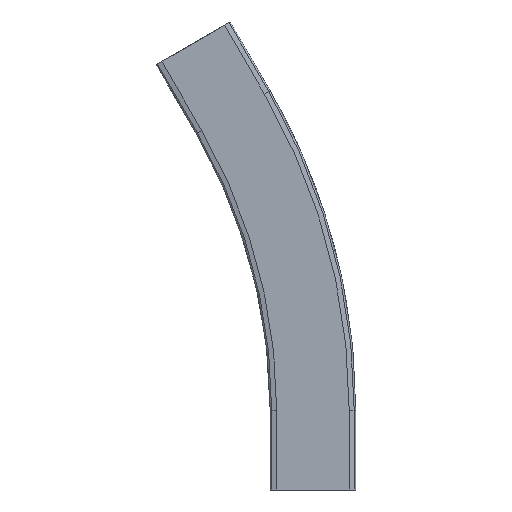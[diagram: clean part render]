
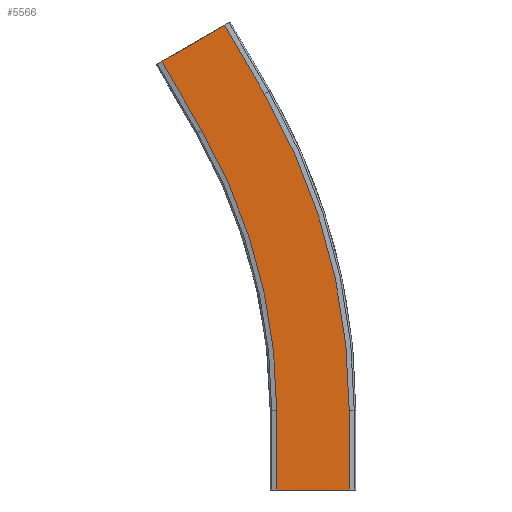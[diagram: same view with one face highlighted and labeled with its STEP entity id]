
A CAD part, front view. The second image highlights one B-rep face of the part: STEP entity #5566.
In plain terms, the highlighted planar face has unit normal (0, -1, 0).
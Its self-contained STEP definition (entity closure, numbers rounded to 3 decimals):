
#5197=CARTESIAN_POINT('',(36.5,-11.,0.0));
#5198=VERTEX_POINT('',#5197);
#5205=CARTESIAN_POINT('',(-36.5,-11.,0.0));
#5206=VERTEX_POINT('',#5205);
#5207=CARTESIAN_POINT('',(-36.5,-11.,0.0));
#5208=DIRECTION('',(1.0,0.0,0.0));
#5209=VECTOR('',#5208,73.);
#5210=LINE('',#5207,#5209);
#5211=EDGE_CURVE('',#5206,#5198,#5210,.T.);
#5277=CARTESIAN_POINT('',(-36.5,-11.,80.0));
#5278=VERTEX_POINT('',#5277);
#5292=CARTESIAN_POINT('',(-36.5,-11.,0.0));
#5293=DIRECTION('',(0.0,0.0,1.0));
#5294=VECTOR('',#5293,80.0);
#5295=LINE('',#5292,#5294);
#5296=EDGE_CURVE('',#5206,#5278,#5295,.T.);
#5306=CARTESIAN_POINT('',(36.5,-11.,80.0));
#5307=VERTEX_POINT('',#5306);
#5316=CARTESIAN_POINT('',(36.5,-11.,0.0));
#5317=DIRECTION('',(0.0,0.0,1.0));
#5318=VECTOR('',#5317,80.0);
#5319=LINE('',#5316,#5318);
#5320=EDGE_CURVE('',#5198,#5307,#5319,.T.);
#5393=CARTESIAN_POINT('',(-48.775,-11.,398.25));
#5394=VERTEX_POINT('',#5393);
#5403=CARTESIAN_POINT('',(-600.0,-11.,80.0));
#5404=DIRECTION('',(0.0,-1.0,0.0));
#5405=DIRECTION('',(1.0,0.0,0.0));
#5406=AXIS2_PLACEMENT_3D('',#5403,#5404,#5405);
#5407=CIRCLE('',#5406,636.5);
#5408=EDGE_CURVE('',#5307,#5394,#5407,.T.);
#5460=CARTESIAN_POINT('',(-111.995,-11.,361.75));
#5461=VERTEX_POINT('',#5460);
#5476=CARTESIAN_POINT('',(-600.0,-11.,80.0));
#5477=DIRECTION('',(0.0,-1.0,0.0));
#5478=DIRECTION('',(1.0,0.0,0.0));
#5479=AXIS2_PLACEMENT_3D('',#5476,#5477,#5478);
#5480=CIRCLE('',#5479,563.5);
#5481=EDGE_CURVE('',#5278,#5461,#5480,.T.);
#5520=CARTESIAN_POINT('',(-151.995,-11.,431.032));
#5521=VERTEX_POINT('',#5520);
#5530=CARTESIAN_POINT('',(-111.995,-11.,361.75));
#5531=DIRECTION('',(-0.5,0.,0.866));
#5532=VECTOR('',#5531,80.);
#5533=LINE('',#5530,#5532);
#5534=EDGE_CURVE('',#5461,#5521,#5533,.T.);
#5539=CARTESIAN_POINT('',(148.305,-11.,56.898));
#5540=DIRECTION('',(0.0,-1.0,0.0));
#5541=DIRECTION('',(0.5,0.0,-0.866));
#5542=AXIS2_PLACEMENT_3D('',#5539,#5540,#5541);
#5543=PLANE('',#5542);
#5544=CARTESIAN_POINT('',(-88.775,-11.,467.532));
#5545=VERTEX_POINT('',#5544);
#5546=CARTESIAN_POINT('',(-88.775,-11.,467.532));
#5547=DIRECTION('',(-0.866,0.,-0.5));
#5548=VECTOR('',#5547,73.);
#5549=LINE('',#5546,#5548);
#5550=EDGE_CURVE('',#5545,#5521,#5549,.T.);
#5551=ORIENTED_EDGE('',*,*,#5550,.T.);
#5552=ORIENTED_EDGE('',*,*,#5534,.F.);
#5553=ORIENTED_EDGE('',*,*,#5481,.F.);
#5554=ORIENTED_EDGE('',*,*,#5296,.F.);
#5555=ORIENTED_EDGE('',*,*,#5211,.T.);
#5556=ORIENTED_EDGE('',*,*,#5320,.T.);
#5557=ORIENTED_EDGE('',*,*,#5408,.T.);
#5558=CARTESIAN_POINT('',(-48.775,-11.,398.25));
#5559=DIRECTION('',(-0.5,0.,0.866));
#5560=VECTOR('',#5559,80.0);
#5561=LINE('',#5558,#5560);
#5562=EDGE_CURVE('',#5394,#5545,#5561,.T.);
#5563=ORIENTED_EDGE('',*,*,#5562,.T.);
#5564=EDGE_LOOP('',(#5551,#5552,#5553,#5554,#5555,#5556,#5557,#5563));
#5565=FACE_OUTER_BOUND('',#5564,.T.);
#5566=ADVANCED_FACE('',(#5565),#5543,.T.);
